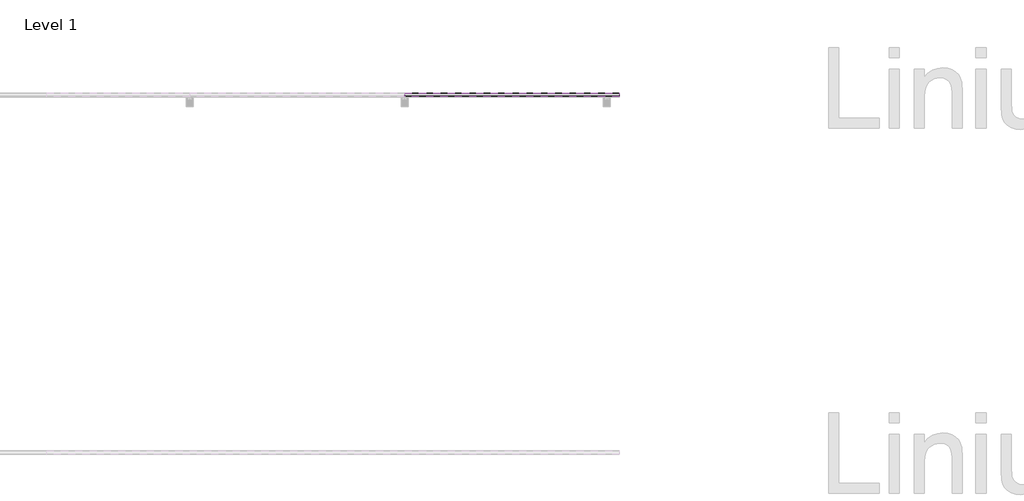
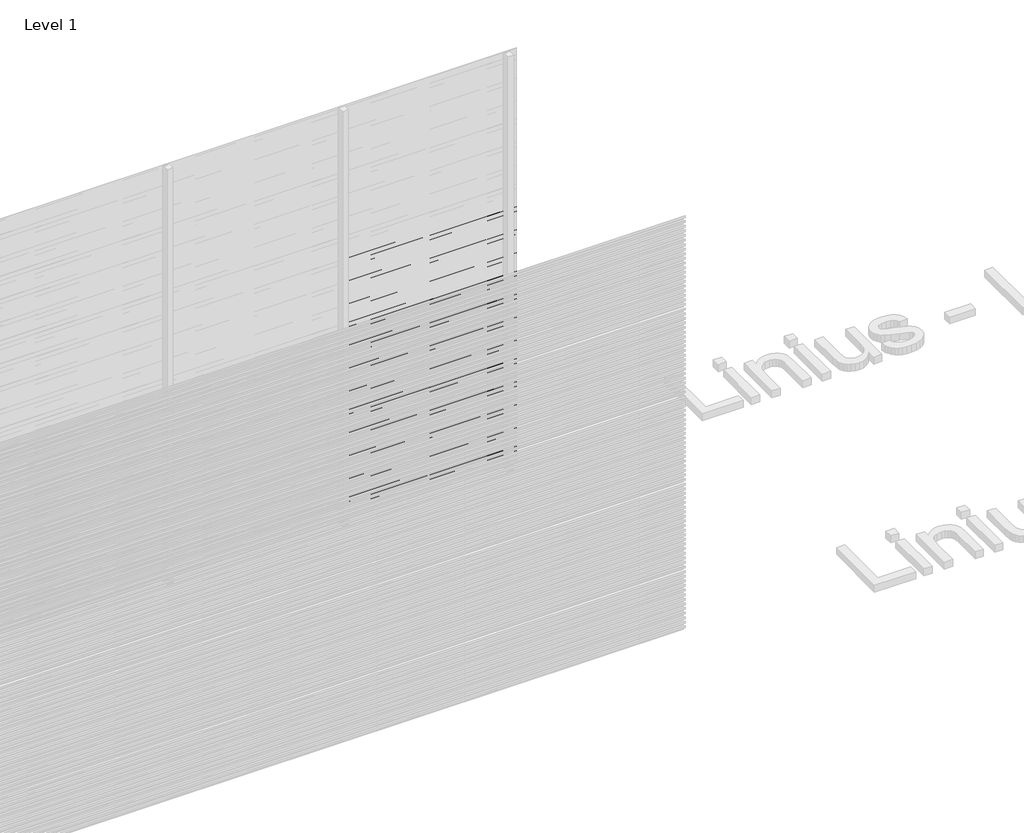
# One storey, part 61 of 507: 58 proxies.
"""IFC4 building model written with IfcOpenShell, lengths in millimetres."""

from ifc_helpers import new_model, si_unit, frame, origin, place, context, project, spatial, polyline, outline, extrude, element, save

model = new_model("IFC4")

# Units and contexts
model_context = context("Model", 3, world=origin())
ifc_project = project(units=[si_unit("LENGTHUNIT", "METRE", prefix="MILLI")], contexts=[model_context])

# Site, building, storey
site = spatial("IfcSite", under=ifc_project)
building = spatial("IfcBuilding", under=site)
storey = spatial("IfcBuildingStorey", under=building, Name="Level 1", Elevation=0.0)

# Proxies
placement = place(None, origin())
element("IfcBuildingElementProxy", 1, Name="Wall Sweeps", at=placement, inside=storey, context=model_context, shape_type="SweptSolid", body=[
    extrude(outline(polyline([(36503.4540136, 1907.4), (36503.4540136, 1893.9), (36502.2040136, 1894.6216933), (36502.2040136, 1906.6782281), (36483.0540136, 1917.7345698), (36483.0540136, 1931.4), (36484.3040136, 1931.4), (36484.3040136, 1918.4562577), (36503.4540136, 1907.4)])), frame((49766.6208095, 0.0, 0.0), z_axis=(1.0, 0.0, 0.0), x_axis=(0.0, 1.0, 0.0)), (0.0, 0.0, 1.0), 1200.0000002),
])
element("IfcBuildingElementProxy", 2, Name="Wall Sweeps", at=placement, inside=storey, context=model_context, shape_type="SweptSolid", body=[
    extrude(outline(polyline([(36503.4540136, 1874.1), (36503.4540136, 1860.6), (36502.2040136, 1861.3216933), (36502.2040136, 1873.3782281), (36483.0540136, 1884.4345698), (36483.0540136, 1898.1), (36484.3040136, 1898.1), (36484.3040136, 1885.1562577), (36503.4540136, 1874.1)])), frame((49766.6208095, 0.0, 0.0), z_axis=(1.0, 0.0, 0.0), x_axis=(0.0, 1.0, 0.0)), (0.0, 0.0, 1.0), 1200.0000002),
])
element("IfcBuildingElementProxy", 3, Name="Wall Sweeps", at=placement, inside=storey, context=model_context, shape_type="SweptSolid", body=[
    extrude(outline(polyline([(36503.4540136, 1840.8), (36503.4540136, 1827.3), (36502.2040136, 1828.0216933), (36502.2040136, 1840.0782281), (36483.0540136, 1851.1345698), (36483.0540136, 1864.8), (36484.3040136, 1864.8), (36484.3040136, 1851.8562577), (36503.4540136, 1840.8)])), frame((49766.6208095, 0.0, 0.0), z_axis=(1.0, 0.0, 0.0), x_axis=(0.0, 1.0, 0.0)), (0.0, 0.0, 1.0), 1200.0000002),
])
element("IfcBuildingElementProxy", 4, Name="Wall Sweeps", at=placement, inside=storey, context=model_context, shape_type="SweptSolid", body=[
    extrude(outline(polyline([(36503.4540136, 1807.5), (36503.4540136, 1794.0), (36502.2040136, 1794.7216933), (36502.2040136, 1806.7782281), (36483.0540136, 1817.8345698), (36483.0540136, 1831.5), (36484.3040136, 1831.5), (36484.3040136, 1818.5562577), (36503.4540136, 1807.5)])), frame((49766.6208095, 0.0, 0.0), z_axis=(1.0, 0.0, 0.0), x_axis=(0.0, 1.0, 0.0)), (0.0, 0.0, 1.0), 1200.0000002),
])
element("IfcBuildingElementProxy", 5, Name="Wall Sweeps", at=placement, inside=storey, context=model_context, shape_type="SweptSolid", body=[
    extrude(outline(polyline([(36503.4540136, 1774.2), (36503.4540136, 1760.7), (36502.2040136, 1761.4216933), (36502.2040136, 1773.4782281), (36483.0540136, 1784.5345698), (36483.0540136, 1798.2), (36484.3040136, 1798.2), (36484.3040136, 1785.2562577), (36503.4540136, 1774.2)])), frame((49766.6208095, 0.0, 0.0), z_axis=(1.0, 0.0, 0.0), x_axis=(0.0, 1.0, 0.0)), (0.0, 0.0, 1.0), 1200.0000002),
])
element("IfcBuildingElementProxy", 6, Name="Wall Sweeps", at=placement, inside=storey, context=model_context, shape_type="SweptSolid", body=[
    extrude(outline(polyline([(36503.4540136, 1740.9), (36503.4540136, 1727.4), (36502.2040136, 1728.1216933), (36502.2040136, 1740.1782281), (36483.0540136, 1751.2345698), (36483.0540136, 1764.9), (36484.3040136, 1764.9), (36484.3040136, 1751.9562577), (36503.4540136, 1740.9)])), frame((49766.6208095, 0.0, 0.0), z_axis=(1.0, 0.0, 0.0), x_axis=(0.0, 1.0, 0.0)), (0.0, 0.0, 1.0), 1200.0000002),
])
element("IfcBuildingElementProxy", 7, Name="Wall Sweeps", at=placement, inside=storey, context=model_context, shape_type="SweptSolid", body=[
    extrude(outline(polyline([(36503.4540136, 1707.6), (36503.4540136, 1694.1), (36502.2040136, 1694.8216933), (36502.2040136, 1706.8782281), (36483.0540136, 1717.9345698), (36483.0540136, 1731.6), (36484.3040136, 1731.6), (36484.3040136, 1718.6562577), (36503.4540136, 1707.6)])), frame((49766.6208095, 0.0, 0.0), z_axis=(1.0, 0.0, 0.0), x_axis=(0.0, 1.0, 0.0)), (0.0, 0.0, 1.0), 1200.0000002),
])
element("IfcBuildingElementProxy", 8, Name="Wall Sweeps", at=placement, inside=storey, context=model_context, shape_type="SweptSolid", body=[
    extrude(outline(polyline([(36503.4540136, 1674.3), (36503.4540136, 1660.8), (36502.2040136, 1661.5216933), (36502.2040136, 1673.5782281), (36483.0540136, 1684.6345698), (36483.0540136, 1698.3), (36484.3040136, 1698.3), (36484.3040136, 1685.3562577), (36503.4540136, 1674.3)])), frame((49766.6208095, 0.0, 0.0), z_axis=(1.0, 0.0, 0.0), x_axis=(0.0, 1.0, 0.0)), (0.0, 0.0, 1.0), 1200.0000002),
])
element("IfcBuildingElementProxy", 9, Name="Wall Sweeps", at=placement, inside=storey, context=model_context, shape_type="SweptSolid", body=[
    extrude(outline(polyline([(36503.4540136, 1641.0), (36503.4540136, 1627.5), (36502.2040136, 1628.2216933), (36502.2040136, 1640.2782281), (36483.0540136, 1651.3345698), (36483.0540136, 1665.0), (36484.3040136, 1665.0), (36484.3040136, 1652.0562577), (36503.4540136, 1641.0)])), frame((49766.6208095, 0.0, 0.0), z_axis=(1.0, 0.0, 0.0), x_axis=(0.0, 1.0, 0.0)), (0.0, 0.0, 1.0), 1200.0000002),
])
element("IfcBuildingElementProxy", 10, Name="Wall Sweeps", at=placement, inside=storey, context=model_context, shape_type="SweptSolid", body=[
    extrude(outline(polyline([(36503.4540136, 1607.7), (36503.4540136, 1594.2), (36502.2040136, 1594.9216933), (36502.2040136, 1606.9782281), (36483.0540136, 1618.0345698), (36483.0540136, 1631.7), (36484.3040136, 1631.7), (36484.3040136, 1618.7562577), (36503.4540136, 1607.7)])), frame((49766.6208095, 0.0, 0.0), z_axis=(1.0, 0.0, 0.0), x_axis=(0.0, 1.0, 0.0)), (0.0, 0.0, 1.0), 1200.0000002),
])
element("IfcBuildingElementProxy", 11, Name="Wall Sweeps", at=placement, inside=storey, context=model_context, shape_type="SweptSolid", body=[
    extrude(outline(polyline([(36503.4540136, 1574.4), (36503.4540136, 1560.9), (36502.2040136, 1561.6216933), (36502.2040136, 1573.6782281), (36483.0540136, 1584.7345698), (36483.0540136, 1598.4), (36484.3040136, 1598.4), (36484.3040136, 1585.4562577), (36503.4540136, 1574.4)])), frame((49766.6208095, 0.0, 0.0), z_axis=(1.0, 0.0, 0.0), x_axis=(0.0, 1.0, 0.0)), (0.0, 0.0, 1.0), 1200.0000002),
])
element("IfcBuildingElementProxy", 12, Name="Wall Sweeps", at=placement, inside=storey, context=model_context, shape_type="SweptSolid", body=[
    extrude(outline(polyline([(36503.4540136, 1541.1), (36503.4540136, 1527.6), (36502.2040136, 1528.3216933), (36502.2040136, 1540.3782281), (36483.0540136, 1551.4345698), (36483.0540136, 1565.1), (36484.3040136, 1565.1), (36484.3040136, 1552.1562577), (36503.4540136, 1541.1)])), frame((49766.6208095, 0.0, 0.0), z_axis=(1.0, 0.0, 0.0), x_axis=(0.0, 1.0, 0.0)), (0.0, 0.0, 1.0), 1200.0000002),
])
element("IfcBuildingElementProxy", 13, Name="Wall Sweeps", at=placement, inside=storey, context=model_context, shape_type="SweptSolid", body=[
    extrude(outline(polyline([(36503.4540136, 1507.8), (36503.4540136, 1494.3), (36502.2040136, 1495.0216933), (36502.2040136, 1507.0782281), (36483.0540136, 1518.1345698), (36483.0540136, 1531.8), (36484.3040136, 1531.8), (36484.3040136, 1518.8562577), (36503.4540136, 1507.8)])), frame((49766.6208095, 0.0, 0.0), z_axis=(1.0, 0.0, 0.0), x_axis=(0.0, 1.0, 0.0)), (0.0, 0.0, 1.0), 1200.0000002),
])
element("IfcBuildingElementProxy", 14, Name="Wall Sweeps", at=placement, inside=storey, context=model_context, shape_type="SweptSolid", body=[
    extrude(outline(polyline([(36503.4540136, 1474.5), (36503.4540136, 1461.0), (36502.2040136, 1461.7216933), (36502.2040136, 1473.7782281), (36483.0540136, 1484.8345698), (36483.0540136, 1498.5), (36484.3040136, 1498.5), (36484.3040136, 1485.5562577), (36503.4540136, 1474.5)])), frame((49766.6208095, 0.0, 0.0), z_axis=(1.0, 0.0, 0.0), x_axis=(0.0, 1.0, 0.0)), (0.0, 0.0, 1.0), 1200.0000002),
])
element("IfcBuildingElementProxy", 15, Name="Wall Sweeps", at=placement, inside=storey, context=model_context, shape_type="SweptSolid", body=[
    extrude(outline(polyline([(36503.4540136, 1441.2), (36503.4540136, 1427.7), (36502.2040136, 1428.4216933), (36502.2040136, 1440.4782281), (36483.0540136, 1451.5345698), (36483.0540136, 1465.2), (36484.3040136, 1465.2), (36484.3040136, 1452.2562577), (36503.4540136, 1441.2)])), frame((49766.6208095, 0.0, 0.0), z_axis=(1.0, 0.0, 0.0), x_axis=(0.0, 1.0, 0.0)), (0.0, 0.0, 1.0), 1200.0000002),
])
element("IfcBuildingElementProxy", 16, Name="Wall Sweeps", at=placement, inside=storey, context=model_context, shape_type="SweptSolid", body=[
    extrude(outline(polyline([(36503.4540136, 1407.9), (36503.4540136, 1394.4), (36502.2040136, 1395.1216933), (36502.2040136, 1407.1782281), (36483.0540136, 1418.2345698), (36483.0540136, 1431.9), (36484.3040136, 1431.9), (36484.3040136, 1418.9562577), (36503.4540136, 1407.9)])), frame((49766.6208095, 0.0, 0.0), z_axis=(1.0, 0.0, 0.0), x_axis=(0.0, 1.0, 0.0)), (0.0, 0.0, 1.0), 1200.0000002),
])
element("IfcBuildingElementProxy", 17, Name="Wall Sweeps", at=placement, inside=storey, context=model_context, shape_type="SweptSolid", body=[
    extrude(outline(polyline([(36503.4540136, 1374.6), (36503.4540136, 1361.1), (36502.2040136, 1361.8216933), (36502.2040136, 1373.8782281), (36483.0540136, 1384.9345698), (36483.0540136, 1398.6), (36484.3040136, 1398.6), (36484.3040136, 1385.6562577), (36503.4540136, 1374.6)])), frame((49766.6208095, 0.0, 0.0), z_axis=(1.0, 0.0, 0.0), x_axis=(0.0, 1.0, 0.0)), (0.0, 0.0, 1.0), 1200.0000002),
])
element("IfcBuildingElementProxy", 18, Name="Wall Sweeps", at=placement, inside=storey, context=model_context, shape_type="SweptSolid", body=[
    extrude(outline(polyline([(36503.4540136, 1341.3), (36503.4540136, 1327.8), (36502.2040136, 1328.5216933), (36502.2040136, 1340.5782281), (36483.0540136, 1351.6345698), (36483.0540136, 1365.3), (36484.3040136, 1365.3), (36484.3040136, 1352.3562577), (36503.4540136, 1341.3)])), frame((49766.6208095, 0.0, 0.0), z_axis=(1.0, 0.0, 0.0), x_axis=(0.0, 1.0, 0.0)), (0.0, 0.0, 1.0), 1200.0000002),
])
element("IfcBuildingElementProxy", 19, Name="Wall Sweeps", at=placement, inside=storey, context=model_context, shape_type="SweptSolid", body=[
    extrude(outline(polyline([(36503.4540136, 1308.0), (36503.4540136, 1294.5), (36502.2040136, 1295.2216933), (36502.2040136, 1307.2782281), (36483.0540136, 1318.3345698), (36483.0540136, 1332.0), (36484.3040136, 1332.0), (36484.3040136, 1319.0562577), (36503.4540136, 1308.0)])), frame((49766.6208095, 0.0, 0.0), z_axis=(1.0, 0.0, 0.0), x_axis=(0.0, 1.0, 0.0)), (0.0, 0.0, 1.0), 1200.0000002),
])
element("IfcBuildingElementProxy", 20, Name="Wall Sweeps", at=placement, inside=storey, context=model_context, shape_type="SweptSolid", body=[
    extrude(outline(polyline([(36503.4540136, 1274.7), (36503.4540136, 1261.2), (36502.2040136, 1261.9216933), (36502.2040136, 1273.9782281), (36483.0540136, 1285.0345698), (36483.0540136, 1298.7), (36484.3040136, 1298.7), (36484.3040136, 1285.7562577), (36503.4540136, 1274.7)])), frame((49766.6208095, 0.0, 0.0), z_axis=(1.0, 0.0, 0.0), x_axis=(0.0, 1.0, 0.0)), (0.0, 0.0, 1.0), 1200.0000002),
])
element("IfcBuildingElementProxy", 21, Name="Wall Sweeps", at=placement, inside=storey, context=model_context, shape_type="SweptSolid", body=[
    extrude(outline(polyline([(36503.4540136, 1241.4), (36503.4540136, 1227.9), (36502.2040136, 1228.6216933), (36502.2040136, 1240.6782281), (36483.0540136, 1251.7345698), (36483.0540136, 1265.4), (36484.3040136, 1265.4), (36484.3040136, 1252.4562577), (36503.4540136, 1241.4)])), frame((49766.6208095, 0.0, 0.0), z_axis=(1.0, 0.0, 0.0), x_axis=(0.0, 1.0, 0.0)), (0.0, 0.0, 1.0), 1200.0000002),
])
element("IfcBuildingElementProxy", 22, Name="Wall Sweeps", at=placement, inside=storey, context=model_context, shape_type="SweptSolid", body=[
    extrude(outline(polyline([(36503.4540136, 1208.1), (36503.4540136, 1194.6), (36502.2040136, 1195.3216933), (36502.2040136, 1207.3782281), (36483.0540136, 1218.4345698), (36483.0540136, 1232.1), (36484.3040136, 1232.1), (36484.3040136, 1219.1562577), (36503.4540136, 1208.1)])), frame((49766.6208095, 0.0, 0.0), z_axis=(1.0, 0.0, 0.0), x_axis=(0.0, 1.0, 0.0)), (0.0, 0.0, 1.0), 1200.0000002),
])
element("IfcBuildingElementProxy", 23, Name="Wall Sweeps", at=placement, inside=storey, context=model_context, shape_type="SweptSolid", body=[
    extrude(outline(polyline([(36503.4540136, 1174.8), (36503.4540136, 1161.3), (36502.2040136, 1162.0216933), (36502.2040136, 1174.0782281), (36483.0540136, 1185.1345698), (36483.0540136, 1198.8), (36484.3040136, 1198.8), (36484.3040136, 1185.8562577), (36503.4540136, 1174.8)])), frame((49766.6208095, 0.0, 0.0), z_axis=(1.0, 0.0, 0.0), x_axis=(0.0, 1.0, 0.0)), (0.0, 0.0, 1.0), 1200.0000002),
])
element("IfcBuildingElementProxy", 24, Name="Wall Sweeps", at=placement, inside=storey, context=model_context, shape_type="SweptSolid", body=[
    extrude(outline(polyline([(36503.4540136, 1141.5), (36503.4540136, 1128.0), (36502.2040136, 1128.7216933), (36502.2040136, 1140.7782281), (36483.0540136, 1151.8345698), (36483.0540136, 1165.5), (36484.3040136, 1165.5), (36484.3040136, 1152.5562577), (36503.4540136, 1141.5)])), frame((49766.6208095, 0.0, 0.0), z_axis=(1.0, 0.0, 0.0), x_axis=(0.0, 1.0, 0.0)), (0.0, 0.0, 1.0), 1200.0000002),
])
element("IfcBuildingElementProxy", 25, Name="Wall Sweeps", at=placement, inside=storey, context=model_context, shape_type="SweptSolid", body=[
    extrude(outline(polyline([(36503.4540136, 1108.2), (36503.4540136, 1094.7), (36502.2040136, 1095.4216933), (36502.2040136, 1107.4782281), (36483.0540136, 1118.5345698), (36483.0540136, 1132.2), (36484.3040136, 1132.2), (36484.3040136, 1119.2562577), (36503.4540136, 1108.2)])), frame((49766.6208095, 0.0, 0.0), z_axis=(1.0, 0.0, 0.0), x_axis=(0.0, 1.0, 0.0)), (0.0, 0.0, 1.0), 1200.0000002),
])
element("IfcBuildingElementProxy", 26, Name="Wall Sweeps", at=placement, inside=storey, context=model_context, shape_type="SweptSolid", body=[
    extrude(outline(polyline([(36503.4540136, 1074.9), (36503.4540136, 1061.4), (36502.2040136, 1062.1216933), (36502.2040136, 1074.1782281), (36483.0540136, 1085.2345698), (36483.0540136, 1098.9), (36484.3040136, 1098.9), (36484.3040136, 1085.9562577), (36503.4540136, 1074.9)])), frame((49766.6208095, 0.0, 0.0), z_axis=(1.0, 0.0, 0.0), x_axis=(0.0, 1.0, 0.0)), (0.0, 0.0, 1.0), 1200.0000002),
])
element("IfcBuildingElementProxy", 27, Name="Wall Sweeps", at=placement, inside=storey, context=model_context, shape_type="SweptSolid", body=[
    extrude(outline(polyline([(36503.4540136, 1041.6), (36503.4540136, 1028.1), (36502.2040136, 1028.8216933), (36502.2040136, 1040.8782281), (36483.0540136, 1051.9345698), (36483.0540136, 1065.6), (36484.3040136, 1065.6), (36484.3040136, 1052.6562577), (36503.4540136, 1041.6)])), frame((49766.6208095, 0.0, 0.0), z_axis=(1.0, 0.0, 0.0), x_axis=(0.0, 1.0, 0.0)), (0.0, 0.0, 1.0), 1200.0000002),
])
element("IfcBuildingElementProxy", 28, Name="Wall Sweeps", at=placement, inside=storey, context=model_context, shape_type="SweptSolid", body=[
    extrude(outline(polyline([(36503.4540136, 1008.3), (36503.4540136, 994.8), (36502.2040136, 995.5216933), (36502.2040136, 1007.5782281), (36483.0540136, 1018.6345698), (36483.0540136, 1032.3), (36484.3040136, 1032.3), (36484.3040136, 1019.3562577), (36503.4540136, 1008.3)])), frame((49766.6208095, 0.0, 0.0), z_axis=(1.0, 0.0, 0.0), x_axis=(0.0, 1.0, 0.0)), (0.0, 0.0, 1.0), 1200.0000002),
])
element("IfcBuildingElementProxy", 29, Name="Wall Sweeps", at=placement, inside=storey, context=model_context, shape_type="SweptSolid", body=[
    extrude(outline(polyline([(36503.4540136, 975.0), (36503.4540136, 961.5), (36502.2040136, 962.2216933), (36502.2040136, 974.2782281), (36483.0540136, 985.3345698), (36483.0540136, 999.0), (36484.3040136, 999.0), (36484.3040136, 986.0562577), (36503.4540136, 975.0)])), frame((49766.6208095, 0.0, 0.0), z_axis=(1.0, 0.0, 0.0), x_axis=(0.0, 1.0, 0.0)), (0.0, 0.0, 1.0), 1200.0000002),
])
element("IfcBuildingElementProxy", 30, Name="Wall Sweeps", at=placement, inside=storey, context=model_context, shape_type="SweptSolid", body=[
    extrude(outline(polyline([(36503.4540136, 941.7), (36503.4540136, 928.2), (36502.2040136, 928.9216933), (36502.2040136, 940.9782281), (36483.0540136, 952.0345698), (36483.0540136, 965.7), (36484.3040136, 965.7), (36484.3040136, 952.7562577), (36503.4540136, 941.7)])), frame((49766.6208095, 0.0, 0.0), z_axis=(1.0, 0.0, 0.0), x_axis=(0.0, 1.0, 0.0)), (0.0, 0.0, 1.0), 1200.0000002),
])
element("IfcBuildingElementProxy", 31, Name="Wall Sweeps", at=placement, inside=storey, context=model_context, shape_type="SweptSolid", body=[
    extrude(outline(polyline([(36503.4540136, 908.4), (36503.4540136, 894.9), (36502.2040136, 895.6216933), (36502.2040136, 907.6782281), (36483.0540136, 918.7345698), (36483.0540136, 932.4), (36484.3040136, 932.4), (36484.3040136, 919.4562577), (36503.4540136, 908.4)])), frame((49766.6208095, 0.0, 0.0), z_axis=(1.0, 0.0, 0.0), x_axis=(0.0, 1.0, 0.0)), (0.0, 0.0, 1.0), 1200.0000002),
])
element("IfcBuildingElementProxy", 32, Name="Wall Sweeps", at=placement, inside=storey, context=model_context, shape_type="SweptSolid", body=[
    extrude(outline(polyline([(36503.4540136, 875.1), (36503.4540136, 861.6), (36502.2040136, 862.3216933), (36502.2040136, 874.3782281), (36483.0540136, 885.4345698), (36483.0540136, 899.1), (36484.3040136, 899.1), (36484.3040136, 886.1562577), (36503.4540136, 875.1)])), frame((49766.6208095, 0.0, 0.0), z_axis=(1.0, 0.0, 0.0), x_axis=(0.0, 1.0, 0.0)), (0.0, 0.0, 1.0), 1200.0000002),
])
element("IfcBuildingElementProxy", 33, Name="Wall Sweeps", at=placement, inside=storey, context=model_context, shape_type="SweptSolid", body=[
    extrude(outline(polyline([(36503.4540136, 841.8), (36503.4540136, 828.3), (36502.2040136, 829.0216933), (36502.2040136, 841.0782281), (36483.0540136, 852.1345698), (36483.0540136, 865.8), (36484.3040136, 865.8), (36484.3040136, 852.8562577), (36503.4540136, 841.8)])), frame((49766.6208095, 0.0, 0.0), z_axis=(1.0, 0.0, 0.0), x_axis=(0.0, 1.0, 0.0)), (0.0, 0.0, 1.0), 1200.0000002),
])
element("IfcBuildingElementProxy", 34, Name="Wall Sweeps", at=placement, inside=storey, context=model_context, shape_type="SweptSolid", body=[
    extrude(outline(polyline([(36503.4540136, 808.5), (36503.4540136, 795.0), (36502.2040136, 795.7216933), (36502.2040136, 807.7782281), (36483.0540136, 818.8345698), (36483.0540136, 832.5), (36484.3040136, 832.5), (36484.3040136, 819.5562577), (36503.4540136, 808.5)])), frame((49766.6208095, 0.0, 0.0), z_axis=(1.0, 0.0, 0.0), x_axis=(0.0, 1.0, 0.0)), (0.0, 0.0, 1.0), 1200.0000002),
])
element("IfcBuildingElementProxy", 35, Name="Wall Sweeps", at=placement, inside=storey, context=model_context, shape_type="SweptSolid", body=[
    extrude(outline(polyline([(36503.4540136, 775.2), (36503.4540136, 761.7), (36502.2040136, 762.4216933), (36502.2040136, 774.4782281), (36483.0540136, 785.5345698), (36483.0540136, 799.2), (36484.3040136, 799.2), (36484.3040136, 786.2562577), (36503.4540136, 775.2)])), frame((49766.6208095, 0.0, 0.0), z_axis=(1.0, 0.0, 0.0), x_axis=(0.0, 1.0, 0.0)), (0.0, 0.0, 1.0), 1200.0000002),
])
element("IfcBuildingElementProxy", 36, Name="Wall Sweeps", at=placement, inside=storey, context=model_context, shape_type="SweptSolid", body=[
    extrude(outline(polyline([(36503.4540136, 741.9), (36503.4540136, 728.4), (36502.2040136, 729.1216933), (36502.2040136, 741.1782281), (36483.0540136, 752.2345698), (36483.0540136, 765.9), (36484.3040136, 765.9), (36484.3040136, 752.9562577), (36503.4540136, 741.9)])), frame((49766.6208095, 0.0, 0.0), z_axis=(1.0, 0.0, 0.0), x_axis=(0.0, 1.0, 0.0)), (0.0, 0.0, 1.0), 1200.0000002),
])
element("IfcBuildingElementProxy", 37, Name="Wall Sweeps", at=placement, inside=storey, context=model_context, shape_type="SweptSolid", body=[
    extrude(outline(polyline([(36503.4540136, 708.6), (36503.4540136, 695.1), (36502.2040136, 695.8216933), (36502.2040136, 707.8782281), (36483.0540136, 718.9345698), (36483.0540136, 732.6), (36484.3040136, 732.6), (36484.3040136, 719.6562577), (36503.4540136, 708.6)])), frame((49766.6208095, 0.0, 0.0), z_axis=(1.0, 0.0, 0.0), x_axis=(0.0, 1.0, 0.0)), (0.0, 0.0, 1.0), 1200.0000002),
])
element("IfcBuildingElementProxy", 38, Name="Wall Sweeps", at=placement, inside=storey, context=model_context, shape_type="SweptSolid", body=[
    extrude(outline(polyline([(36503.4540136, 675.3), (36503.4540136, 661.8), (36502.2040136, 662.5216933), (36502.2040136, 674.5782281), (36483.0540136, 685.6345698), (36483.0540136, 699.3), (36484.3040136, 699.3), (36484.3040136, 686.3562577), (36503.4540136, 675.3)])), frame((49766.6208095, 0.0, 0.0), z_axis=(1.0, 0.0, 0.0), x_axis=(0.0, 1.0, 0.0)), (0.0, 0.0, 1.0), 1200.0000002),
])
element("IfcBuildingElementProxy", 39, Name="Wall Sweeps", at=placement, inside=storey, context=model_context, shape_type="SweptSolid", body=[
    extrude(outline(polyline([(36503.4540136, 642.0), (36503.4540136, 628.5), (36502.2040136, 629.2216933), (36502.2040136, 641.2782281), (36483.0540136, 652.3345698), (36483.0540136, 666.0), (36484.3040136, 666.0), (36484.3040136, 653.0562577), (36503.4540136, 642.0)])), frame((49766.6208095, 0.0, 0.0), z_axis=(1.0, 0.0, 0.0), x_axis=(0.0, 1.0, 0.0)), (0.0, 0.0, 1.0), 1200.0000002),
])
element("IfcBuildingElementProxy", 40, Name="Wall Sweeps", at=placement, inside=storey, context=model_context, shape_type="SweptSolid", body=[
    extrude(outline(polyline([(36503.4540136, 608.7), (36503.4540136, 595.2), (36502.2040136, 595.9216933), (36502.2040136, 607.9782281), (36483.0540136, 619.0345698), (36483.0540136, 632.7), (36484.3040136, 632.7), (36484.3040136, 619.7562577), (36503.4540136, 608.7)])), frame((49766.6208095, 0.0, 0.0), z_axis=(1.0, 0.0, 0.0), x_axis=(0.0, 1.0, 0.0)), (0.0, 0.0, 1.0), 1200.0000002),
])
element("IfcBuildingElementProxy", 41, Name="Wall Sweeps", at=placement, inside=storey, context=model_context, shape_type="SweptSolid", body=[
    extrude(outline(polyline([(36503.4540136, 575.4), (36503.4540136, 561.9), (36502.2040136, 562.6216933), (36502.2040136, 574.6782281), (36483.0540136, 585.7345698), (36483.0540136, 599.4), (36484.3040136, 599.4), (36484.3040136, 586.4562577), (36503.4540136, 575.4)])), frame((49766.6208095, 0.0, 0.0), z_axis=(1.0, 0.0, 0.0), x_axis=(0.0, 1.0, 0.0)), (0.0, 0.0, 1.0), 1200.0000002),
])
element("IfcBuildingElementProxy", 42, Name="Wall Sweeps", at=placement, inside=storey, context=model_context, shape_type="SweptSolid", body=[
    extrude(outline(polyline([(36503.4540136, 542.1), (36503.4540136, 528.6), (36502.2040136, 529.3216933), (36502.2040136, 541.3782281), (36483.0540136, 552.4345698), (36483.0540136, 566.1), (36484.3040136, 566.1), (36484.3040136, 553.1562577), (36503.4540136, 542.1)])), frame((49766.6208095, 0.0, 0.0), z_axis=(1.0, 0.0, 0.0), x_axis=(0.0, 1.0, 0.0)), (0.0, 0.0, 1.0), 1200.0000002),
])
element("IfcBuildingElementProxy", 43, Name="Wall Sweeps", at=placement, inside=storey, context=model_context, shape_type="SweptSolid", body=[
    extrude(outline(polyline([(36503.4540136, 508.8), (36503.4540136, 495.3), (36502.2040136, 496.0216933), (36502.2040136, 508.0782281), (36483.0540136, 519.1345698), (36483.0540136, 532.8), (36484.3040136, 532.8), (36484.3040136, 519.8562577), (36503.4540136, 508.8)])), frame((49766.6208095, 0.0, 0.0), z_axis=(1.0, 0.0, 0.0), x_axis=(0.0, 1.0, 0.0)), (0.0, 0.0, 1.0), 1200.0000002),
])
element("IfcBuildingElementProxy", 44, Name="Wall Sweeps", at=placement, inside=storey, context=model_context, shape_type="SweptSolid", body=[
    extrude(outline(polyline([(36503.4540136, 475.5), (36503.4540136, 462.0), (36502.2040136, 462.7216933), (36502.2040136, 474.7782281), (36483.0540136, 485.8345698), (36483.0540136, 499.5), (36484.3040136, 499.5), (36484.3040136, 486.5562577), (36503.4540136, 475.5)])), frame((49766.6208095, 0.0, 0.0), z_axis=(1.0, 0.0, 0.0), x_axis=(0.0, 1.0, 0.0)), (0.0, 0.0, 1.0), 1200.0000002),
])
element("IfcBuildingElementProxy", 45, Name="Wall Sweeps", at=placement, inside=storey, context=model_context, shape_type="SweptSolid", body=[
    extrude(outline(polyline([(36503.4540136, 442.2), (36503.4540136, 428.7), (36502.2040136, 429.4216933), (36502.2040136, 441.4782281), (36483.0540136, 452.5345698), (36483.0540136, 466.2), (36484.3040136, 466.2), (36484.3040136, 453.2562577), (36503.4540136, 442.2)])), frame((49766.6208095, 0.0, 0.0), z_axis=(1.0, 0.0, 0.0), x_axis=(0.0, 1.0, 0.0)), (0.0, 0.0, 1.0), 1200.0000002),
])
element("IfcBuildingElementProxy", 46, Name="Wall Sweeps", at=placement, inside=storey, context=model_context, shape_type="SweptSolid", body=[
    extrude(outline(polyline([(36503.4540136, 408.9), (36503.4540136, 395.4), (36502.2040136, 396.1216933), (36502.2040136, 408.1782281), (36483.0540136, 419.2345698), (36483.0540136, 432.9), (36484.3040136, 432.9), (36484.3040136, 419.9562577), (36503.4540136, 408.9)])), frame((49766.6208095, 0.0, 0.0), z_axis=(1.0, 0.0, 0.0), x_axis=(0.0, 1.0, 0.0)), (0.0, 0.0, 1.0), 1200.0000002),
])
element("IfcBuildingElementProxy", 47, Name="Wall Sweeps", at=placement, inside=storey, context=model_context, shape_type="SweptSolid", body=[
    extrude(outline(polyline([(36503.4540136, 375.6), (36503.4540136, 362.1), (36502.2040136, 362.8216933), (36502.2040136, 374.8782281), (36483.0540136, 385.9345698), (36483.0540136, 399.6), (36484.3040136, 399.6), (36484.3040136, 386.6562577), (36503.4540136, 375.6)])), frame((49766.6208095, 0.0, 0.0), z_axis=(1.0, 0.0, 0.0), x_axis=(0.0, 1.0, 0.0)), (0.0, 0.0, 1.0), 1200.0000002),
])
element("IfcBuildingElementProxy", 48, Name="Wall Sweeps", at=placement, inside=storey, context=model_context, shape_type="SweptSolid", body=[
    extrude(outline(polyline([(36503.4540136, 342.3), (36503.4540136, 328.8), (36502.2040136, 329.5216933), (36502.2040136, 341.5782281), (36483.0540136, 352.6345698), (36483.0540136, 366.3), (36484.3040136, 366.3), (36484.3040136, 353.3562577), (36503.4540136, 342.3)])), frame((49766.6208095, 0.0, 0.0), z_axis=(1.0, 0.0, 0.0), x_axis=(0.0, 1.0, 0.0)), (0.0, 0.0, 1.0), 1200.0000002),
])
element("IfcBuildingElementProxy", 49, Name="Wall Sweeps", at=placement, inside=storey, context=model_context, shape_type="SweptSolid", body=[
    extrude(outline(polyline([(36503.4540136, 309.0), (36503.4540136, 295.5), (36502.2040136, 296.2216933), (36502.2040136, 308.2782281), (36483.0540136, 319.3345698), (36483.0540136, 333.0), (36484.3040136, 333.0), (36484.3040136, 320.0562577), (36503.4540136, 309.0)])), frame((49766.6208095, 0.0, 0.0), z_axis=(1.0, 0.0, 0.0), x_axis=(0.0, 1.0, 0.0)), (0.0, 0.0, 1.0), 1200.0000002),
])
element("IfcBuildingElementProxy", 50, Name="Wall Sweeps", at=placement, inside=storey, context=model_context, shape_type="SweptSolid", body=[
    extrude(outline(polyline([(36503.4540136, 275.7), (36503.4540136, 262.2), (36502.2040136, 262.9216933), (36502.2040136, 274.9782281), (36483.0540136, 286.0345698), (36483.0540136, 299.7), (36484.3040136, 299.7), (36484.3040136, 286.7562577), (36503.4540136, 275.7)])), frame((49766.6208095, 0.0, 0.0), z_axis=(1.0, 0.0, 0.0), x_axis=(0.0, 1.0, 0.0)), (0.0, 0.0, 1.0), 1200.0000002),
])
element("IfcBuildingElementProxy", 51, Name="Wall Sweeps", at=placement, inside=storey, context=model_context, shape_type="SweptSolid", body=[
    extrude(outline(polyline([(36503.4540136, 242.4), (36503.4540136, 228.9), (36502.2040136, 229.6216933), (36502.2040136, 241.6782281), (36483.0540136, 252.7345698), (36483.0540136, 266.4), (36484.3040136, 266.4), (36484.3040136, 253.4562577), (36503.4540136, 242.4)])), frame((49766.6208095, 0.0, 0.0), z_axis=(1.0, 0.0, 0.0), x_axis=(0.0, 1.0, 0.0)), (0.0, 0.0, 1.0), 1200.0000002),
])
element("IfcBuildingElementProxy", 52, Name="Wall Sweeps", at=placement, inside=storey, context=model_context, shape_type="SweptSolid", body=[
    extrude(outline(polyline([(36503.4540136, 209.1), (36503.4540136, 195.6), (36502.2040136, 196.3216933), (36502.2040136, 208.3782281), (36483.0540136, 219.4345698), (36483.0540136, 233.1), (36484.3040136, 233.1), (36484.3040136, 220.1562577), (36503.4540136, 209.1)])), frame((49766.6208095, 0.0, 0.0), z_axis=(1.0, 0.0, 0.0), x_axis=(0.0, 1.0, 0.0)), (0.0, 0.0, 1.0), 1200.0000002),
])
element("IfcBuildingElementProxy", 53, Name="Wall Sweeps", at=placement, inside=storey, context=model_context, shape_type="SweptSolid", body=[
    extrude(outline(polyline([(36503.4540136, 175.8), (36503.4540136, 162.3), (36502.2040136, 163.0216933), (36502.2040136, 175.0782281), (36483.0540136, 186.1345698), (36483.0540136, 199.8), (36484.3040136, 199.8), (36484.3040136, 186.8562577), (36503.4540136, 175.8)])), frame((49766.6208095, 0.0, 0.0), z_axis=(1.0, 0.0, 0.0), x_axis=(0.0, 1.0, 0.0)), (0.0, 0.0, 1.0), 1200.0000002),
])
element("IfcBuildingElementProxy", 54, Name="Wall Sweeps", at=placement, inside=storey, context=model_context, shape_type="SweptSolid", body=[
    extrude(outline(polyline([(36503.4540136, 142.5), (36503.4540136, 129.0), (36502.2040136, 129.7216933), (36502.2040136, 141.7782281), (36483.0540136, 152.8345698), (36483.0540136, 166.5), (36484.3040136, 166.5), (36484.3040136, 153.5562577), (36503.4540136, 142.5)])), frame((49766.6208095, 0.0, 0.0), z_axis=(1.0, 0.0, 0.0), x_axis=(0.0, 1.0, 0.0)), (0.0, 0.0, 1.0), 1200.0000002),
])
element("IfcBuildingElementProxy", 55, Name="Wall Sweeps", at=placement, inside=storey, context=model_context, shape_type="SweptSolid", body=[
    extrude(outline(polyline([(36503.4540136, 109.2), (36503.4540136, 95.7), (36502.2040136, 96.4216933), (36502.2040136, 108.4782281), (36483.0540136, 119.5345698), (36483.0540136, 133.2), (36484.3040136, 133.2), (36484.3040136, 120.2562577), (36503.4540136, 109.2)])), frame((49766.6208095, 0.0, 0.0), z_axis=(1.0, 0.0, 0.0), x_axis=(0.0, 1.0, 0.0)), (0.0, 0.0, 1.0), 1200.0000002),
])
element("IfcBuildingElementProxy", 56, Name="Wall Sweeps", at=placement, inside=storey, context=model_context, shape_type="SweptSolid", body=[
    extrude(outline(polyline([(36503.4540136, 75.9), (36503.4540136, 62.4), (36502.2040136, 63.1216933), (36502.2040136, 75.1782281), (36483.0540136, 86.2345698), (36483.0540136, 99.9), (36484.3040136, 99.9), (36484.3040136, 86.9562577), (36503.4540136, 75.9)])), frame((49766.6208095, 0.0, 0.0), z_axis=(1.0, 0.0, 0.0), x_axis=(0.0, 1.0, 0.0)), (0.0, 0.0, 1.0), 1200.0000002),
])
element("IfcBuildingElementProxy", 57, Name="Wall Sweeps", at=placement, inside=storey, context=model_context, shape_type="SweptSolid", body=[
    extrude(outline(polyline([(36503.4540136, 42.6), (36503.4540136, 29.1), (36502.2040136, 29.8216933), (36502.2040136, 41.8782281), (36483.0540136, 52.9345698), (36483.0540136, 66.6), (36484.3040136, 66.6), (36484.3040136, 53.6562577), (36503.4540136, 42.6)])), frame((49766.6208095, 0.0, 0.0), z_axis=(1.0, 0.0, 0.0), x_axis=(0.0, 1.0, 0.0)), (0.0, 0.0, 1.0), 1200.0000002),
])
element("IfcBuildingElementProxy", 58, Name="Wall Sweeps", at=placement, inside=storey, context=model_context, shape_type="SweptSolid", body=[
    extrude(outline(polyline([(36503.4540136, 9.3), (36503.4540136, -4.2), (36502.2040136, -3.4783067), (36502.2040136, 8.5782281), (36483.0540136, 19.6345698), (36483.0540136, 33.3), (36484.3040136, 33.3), (36484.3040136, 20.3562577), (36503.4540136, 9.3)])), frame((49766.6208095, 0.0, 0.0), z_axis=(1.0, 0.0, 0.0), x_axis=(0.0, 1.0, 0.0)), (0.0, 0.0, 1.0), 1200.0000002),
])

save(model, "model.ifc")
